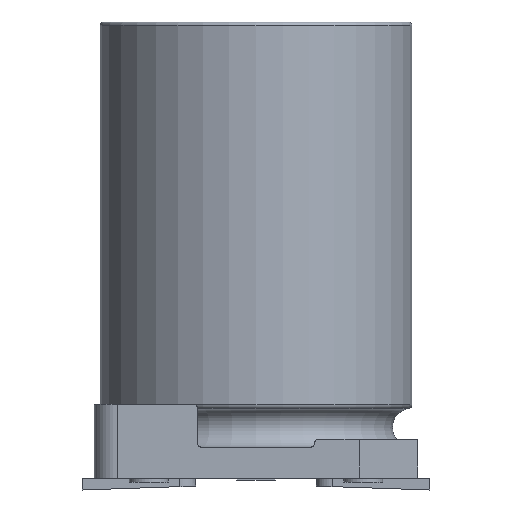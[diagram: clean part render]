
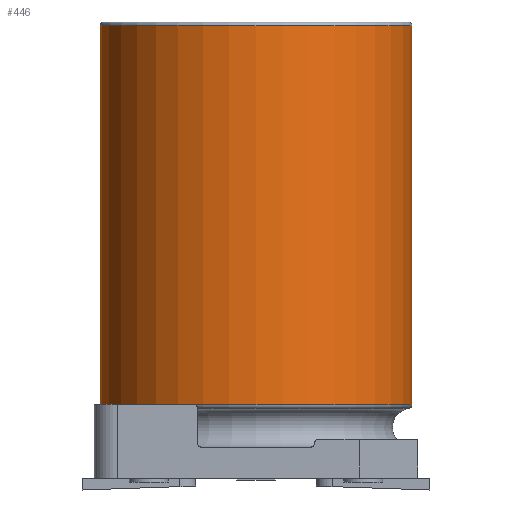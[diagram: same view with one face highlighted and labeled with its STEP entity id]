
A CAD part, front view. The second image highlights one B-rep face of the part: STEP entity #446.
In plain terms, the highlighted cylindrical face has radius 4 mm (diameter 8 mm), a full revolution.
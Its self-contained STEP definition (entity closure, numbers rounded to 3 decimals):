
#219=CYLINDRICAL_SURFACE('',#2487,4.);
#446=ADVANCED_FACE('',(#598,#599),#219,.T.);
#598=FACE_BOUND('',#672,.T.);
#599=FACE_BOUND('',#673,.T.);
#672=EDGE_LOOP('',(#1125));
#673=EDGE_LOOP('',(#1126));
#790=CIRCLE('',#2485,4.);
#791=CIRCLE('',#2486,4.);
#1125=ORIENTED_EDGE('',*,*,#1840,.T.);
#1126=ORIENTED_EDGE('',*,*,#1841,.T.);
#1591=VERTEX_POINT('',#3752);
#1592=VERTEX_POINT('',#3754);
#1840=EDGE_CURVE('',#1591,#1591,#790,.T.);
#1841=EDGE_CURVE('',#1592,#1592,#791,.T.);
#2485=AXIS2_PLACEMENT_3D('',#3751,#2909,#2910);
#2486=AXIS2_PLACEMENT_3D('',#3753,#2911,#2912);
#2487=AXIS2_PLACEMENT_3D('',#3755,#2913,#2914);
#2909=DIRECTION('',(0.,0.,1.));
#2910=DIRECTION('',(1.,0.,0.));
#2911=DIRECTION('',(0.,0.,-1.));
#2912=DIRECTION('',(-1.,0.,0.));
#2913=DIRECTION('',(0.,0.,-1.));
#2914=DIRECTION('',(-1.,0.,0.));
#3751=CARTESIAN_POINT('',(0.,0.,1.892));
#3752=CARTESIAN_POINT('',(4.,0.,1.892));
#3753=CARTESIAN_POINT('',(0.,0.,11.6));
#3754=CARTESIAN_POINT('',(-4.,0.,11.6));
#3755=CARTESIAN_POINT('',(0.,0.,0.));
